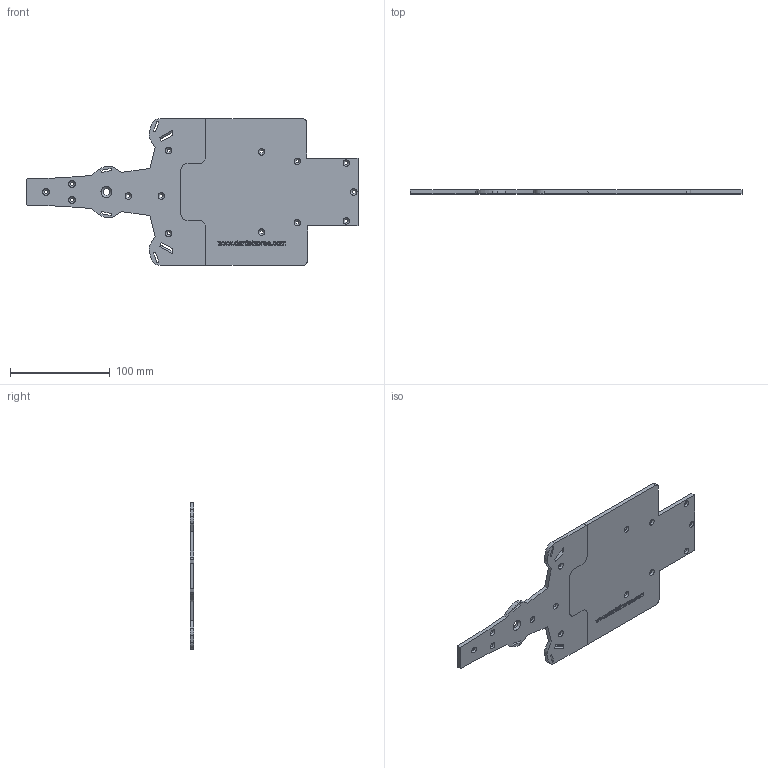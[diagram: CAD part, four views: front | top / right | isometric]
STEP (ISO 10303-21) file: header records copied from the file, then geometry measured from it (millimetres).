
FILE_DESCRIPTION(/* description */ (''),/* implementation_level */ '2;1');
FILE_NAME(/* name */ 'C:/Users/danie/Downloads/2017 chassie.stp',/* time_stamp */ '2017-06-28T23:41:25+02:00',/* author */ (''),/* organization */ (''),/* preprocessor_version */ 'ST-DEVELOPER v16.13',/* originating_system */ 'Autodesk Translation Framework v6.1.1.50',/* authorisation */ '');
FILE_SCHEMA (('AUTOMOTIVE_DESIGN { 1 0 10303 214 3 1 1 }'));
Products named in the file (2): Chassie v88; Component1 (1)
Assembly tree (1 placements, depth 2):
  Chassie v88
    Component1 (1)
Bounding box: 332.6 x 4 x 147 mm (x, y, z)
Volume: 121965.9 mm3; surface area: 68246 mm2
Topology: 2 solids, 9 shells, 1447 faces, 3992 edges, 2655 vertices
Faces by surface type: bspline 825, plane 539, cylinder 47, cone 36
Full cylindrical faces by diameter (mm): 3.3 x14, 7 x1
Entity records: 53867 total; most frequent: CARTESIAN_POINT 22657, ORIENTED_EDGE 7906, EDGE_CURVE 3948, DIRECTION 3668, VERTEX_POINT 2641, LINE 2152, VECTOR 2152, B_SPLINE_CURVE_WITH_KNOTS 1653
